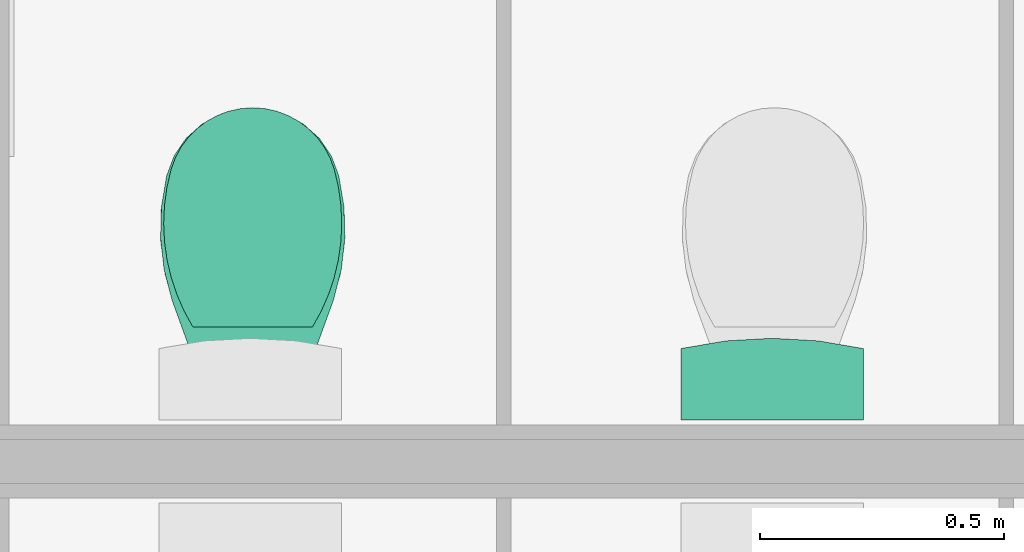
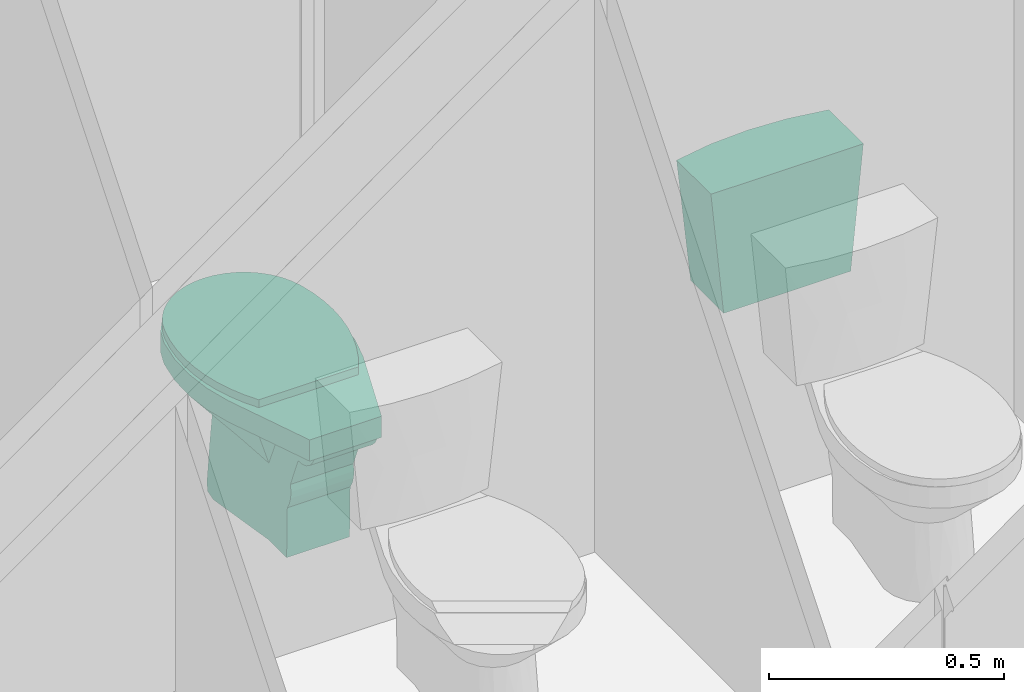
# One storey, part 69 of 155: 3 flow terminals.
"""IFC2X3 building model written with IfcOpenShell, lengths in metres."""

import ifcopenshell
import ifcopenshell.guid

model = None  # the IFC model being written
_history = None  # IfcOwnerHistory: only IFC2X3 demands one
_inside = {}  # id of a spatial element -> (the spatial element, [elements in it])
_under = {}  # id of a project, library or spatial element -> (it, [spatial elements below it])
_declared = {}  # id of a project -> (the project, [libraries it declares])
_typed = {}  # id of a type object -> (the type object, [elements of that type])
_made_of = {}  # id of a material, layer set ... -> (it, [elements and type objects made of it])


def new_model(schema):
    """Start an empty IFC model of exactly this schema.

    Asked for "IFC4X3", IfcOpenShell would pick the latest addendum, in which some entities
    have other attributes; the version numbers below select the first issue.
    IFC2X3 requires an IfcOwnerHistory on every rooted entity: one is made here for all.
    """
    global model, _history
    if schema == "IFC4X3":
        model = ifcopenshell.file(schema_version=(4, 3, 0, 0))
    else:
        model = ifcopenshell.file(schema=schema)
    _inside.clear()
    _under.clear()
    _declared.clear()
    _typed.clear()
    _made_of.clear()
    _history = None
    if model.schema == "IFC2X3":
        org = make("IfcOrganization", Name="unknown")
        user = make(
            "IfcPersonAndOrganization",
            ThePerson=make("IfcPerson", FamilyName="unknown"),
            TheOrganization=org,
        )
        app = make(
            "IfcApplication",
            ApplicationDeveloper=org,
            Version="unknown",
            ApplicationFullName="unknown",
            ApplicationIdentifier="unknown",
        )
        _history = make(
            "IfcOwnerHistory",
            OwningUser=user,
            OwningApplication=app,
            ChangeAction="ADDED",
            CreationDate=0,
        )
    return model


def make(cls, **values):
    """One entity of the class cls with the attributes given. An attribute that is None is left unset."""
    return model.create_entity(
        cls, **{name: value for name, value in values.items() if value is not None}
    )


def entity(cls, *values):
    """Any entity or typed value of the class cls, its attributes in the order of the schema. None: left unset."""
    e = model.create_entity(cls)
    for i, value in enumerate(values):
        if value is not None:
            e[i] = value
    return e


def rooted(cls, **values):
    """An entity with a GlobalId (a new one), such as an element, a storey or a relation."""
    return make(cls, GlobalId=ifcopenshell.guid.new(), OwnerHistory=_history, **values)


def si_unit(unit_type, name, prefix=None):
    """IfcSIUnit, for example si_unit("LENGTHUNIT", "METRE", prefix="MILLI")."""
    return make("IfcSIUnit", UnitType=unit_type, Prefix=prefix, Name=name)


def converted_unit(unit_type, name, factor, base, dimensions=None, offset=None):
    """IfcConversionBasedUnit, such as the inch: factor (a typed value) times the base unit."""
    return make(
        "IfcConversionBasedUnit"
        if offset is None
        else "IfcConversionBasedUnitWithOffset",
        ConversionOffset=offset,
        Dimensions=None
        if dimensions is None
        else entity("IfcDimensionalExponents", *dimensions),
        UnitType=unit_type,
        Name=name,
        ConversionFactor=make(
            "IfcMeasureWithUnit", ValueComponent=factor, UnitComponent=base
        ),
    )


def derived_unit(unit_type, elements):
    """IfcDerivedUnit: a product of units, each with its exponent."""
    return make(
        "IfcDerivedUnit",
        Elements=[
            make("IfcDerivedUnitElement", Unit=unit, Exponent=power)
            for unit, power in elements
        ],
        UnitType=unit_type,
    )


def assignment(units):
    """IfcUnitAssignment: the units of a project."""
    return None if units is None else make("IfcUnitAssignment", Units=units)


def point(xyz):
    """IfcCartesianPoint."""
    return None if xyz is None else make("IfcCartesianPoint", Coordinates=xyz)


def direction(xyz):
    """IfcDirection."""
    return None if xyz is None else make("IfcDirection", DirectionRatios=xyz)


def frame(location, z_axis=None, x_axis=None):
    """IfcAxis2Placement3D, a coordinate frame: its origin and axes. An axis left out is left unset."""
    return make(
        "IfcAxis2Placement3D",
        Location=point(location),
        Axis=direction(z_axis),
        RefDirection=direction(x_axis),
    )


def frame_2d(location, x_axis=None):
    """IfcAxis2Placement2D, a coordinate frame in the plane: its origin and x axis."""
    return make(
        "IfcAxis2Placement2D", Location=point(location), RefDirection=direction(x_axis)
    )


def origin():
    """The frame at (0, 0, 0) with its axes left unset."""
    return frame((0.0, 0.0, 0.0))


def place(relative_to, where):
    """IfcLocalPlacement: puts the frame where relative to a parent placement (None: the world)."""
    return make(
        "IfcLocalPlacement", PlacementRelTo=relative_to, RelativePlacement=where
    )


def context(
    kind, dimensions, precision=None, world=None, true_north=None, identifier=None
):
    """IfcGeometricRepresentationContext, for example the 3D "Model" context."""
    return make(
        "IfcGeometricRepresentationContext",
        ContextIdentifier=identifier,
        ContextType=kind,
        CoordinateSpaceDimension=dimensions,
        Precision=precision,
        WorldCoordinateSystem=world,
        TrueNorth=true_north,
    )


def subcontext(parent, identifier, kind, view, scale=None):
    """IfcGeometricRepresentationSubContext, for example "Body" below "Model"."""
    return make(
        "IfcGeometricRepresentationSubContext",
        ContextIdentifier=identifier,
        ContextType=kind,
        ParentContext=parent,
        TargetScale=scale,
        TargetView=view,
    )


def project(units=None, contexts=None):
    """IfcProject with its units and contexts."""
    return rooted(
        "IfcProject",
        Name="project",
        RepresentationContexts=contexts,
        UnitsInContext=assignment(units),
    )


def spatial(cls, under=None, at=None, **own):
    """A site, building, storey or space (cls), placed at a placement, below another one or the project."""
    s = rooted(cls, ObjectPlacement=at, **own)
    if under is not None:
        _under.setdefault(under.id(), (under, []))[1].append(s)
    return s


def polyline(points):
    """IfcPolyline through the points."""
    return make("IfcPolyline", Points=[point(p) for p in points])


def circle_curve(where, radius):
    """IfcCircle in the frame where."""
    return make("IfcCircle", Position=where, Radius=radius)


def parameter(value):
    """IfcParameterValue: where a trimmed curve begins or ends, as a parameter of its basis curve."""
    return model.create_entity("IfcParameterValue", value)


def trimmed(basis, trim1, trim2, sense, master):
    """IfcTrimmedCurve: the piece of a basis curve between two trims."""
    return make(
        "IfcTrimmedCurve",
        BasisCurve=basis,
        Trim1=trim1,
        Trim2=trim2,
        SenseAgreement=sense,
        MasterRepresentation=master,
    )


def segment(curve, same_sense, transition):
    """IfcCompositeCurveSegment."""
    return make(
        "IfcCompositeCurveSegment",
        Transition=transition,
        SameSense=same_sense,
        ParentCurve=curve,
    )


def composite_curve(segments, self_intersect=None):
    """IfcCompositeCurve: segments joined end to end."""
    return make("IfcCompositeCurve", Segments=segments, SelfIntersect=self_intersect)


def outline(outer, holes=None, kind="AREA"):
    """IfcArbitraryClosedProfileDef: a profile drawn as a closed curve; with holes, ...WithVoids."""
    if holes is None:
        return make("IfcArbitraryClosedProfileDef", ProfileType=kind, OuterCurve=outer)
    return make(
        "IfcArbitraryProfileDefWithVoids",
        ProfileType=kind,
        OuterCurve=outer,
        InnerCurves=holes,
    )


def extrude(swept, where, along, depth):
    """IfcExtrudedAreaSolid: the profile swept, set in the frame where, extruded along a direction by depth."""
    return make(
        "IfcExtrudedAreaSolid",
        SweptArea=swept,
        Position=where,
        ExtrudedDirection=direction(along),
        Depth=depth,
    )


def faces_of(points, faces, orient=None, outer=None):
    """IfcFace entities. A face is a list of loops; a loop is a list of indices into points, from 0.

    orient and outer hold one flag for each loop. By default every Orientation is true, the
    first loop of a face is its IfcFaceOuterBound and the others are IfcFaceBound.
    """
    made = []
    for i, loops in enumerate(faces):
        bounds = []
        for j, loop in enumerate(loops):
            is_outer = j == 0 if outer is None else outer[i][j]
            bounds.append(
                make(
                    "IfcFaceOuterBound" if is_outer else "IfcFaceBound",
                    Bound=make("IfcPolyLoop", Polygon=[points[k] for k in loop]),
                    Orientation=True if orient is None else orient[i][j],
                )
            )
        made.append(make("IfcFace", Bounds=bounds))
    return made


def faceted_brep(points, faces, orient=None, outer=None, voids=None):
    """IfcFacetedBrep: a solid bounded by flat faces; with voids (closed shells), ...WithVoids."""
    shared = [point(p) for p in points]
    hull = make("IfcClosedShell", CfsFaces=faces_of(shared, faces, orient, outer))
    if voids is None:
        return make("IfcFacetedBrep", Outer=hull)
    return make(
        "IfcFacetedBrepWithVoids",
        Outer=hull,
        Voids=[
            make(cls, CfsFaces=faces_of(shared, fs, o, b)) for cls, fs, o, b in voids
        ],
    )


def shape(context_of_items, identifier, shape_type, items):
    """IfcShapeRepresentation: the items that make up one representation, for example the "Body"."""
    return make(
        "IfcShapeRepresentation",
        ContextOfItems=context_of_items,
        RepresentationIdentifier=identifier,
        RepresentationType=shape_type,
        Items=items,
    )


def source(mapping_origin, context_of_items, identifier, shape_type, items):
    """IfcRepresentationMap: a shape defined once, which mapped items show again and again."""
    return make(
        "IfcRepresentationMap",
        MappingOrigin=mapping_origin,
        MappedRepresentation=shape(context_of_items, identifier, shape_type, items),
    )


def transform(
    local_origin,
    x_axis=None,
    y_axis=None,
    z_axis=None,
    scale=None,
    scale2=None,
    scale3=None,
    uniform=True,
):
    """IfcCartesianTransformationOperator3D, or its non-uniform kind. x_axis, y_axis, z_axis: its Axis1, 2, 3."""
    if uniform:
        return make(
            "IfcCartesianTransformationOperator3D",
            Axis1=direction(x_axis),
            Axis2=direction(y_axis),
            LocalOrigin=point(local_origin),
            Scale=scale,
            Axis3=direction(z_axis),
        )
    return make(
        "IfcCartesianTransformationOperator3DnonUniform",
        Axis1=direction(x_axis),
        Axis2=direction(y_axis),
        LocalOrigin=point(local_origin),
        Scale=scale,
        Axis3=direction(z_axis),
        Scale2=scale2,
        Scale3=scale3,
    )


def mapped(mapping_source, mapping_target):
    """IfcMappedItem: shows the shape of a source again, moved by a transform."""
    return make(
        "IfcMappedItem", MappingSource=mapping_source, MappingTarget=mapping_target
    )


def material(Name=None, Category=None):
    """IfcMaterial."""
    return make("IfcMaterial", Name=Name, Category=Category)


def made_of(thing, what):
    """Note that an element or type object is made of a material, layer set ...; save() writes the relation."""
    if what is not None:
        _made_of.setdefault(what.id(), (what, []))[1].append(thing)
    return thing


def element(
    cls,
    number,
    at=None,
    inside=None,
    cuts=None,
    type_object=None,
    material=None,
    context=None,
    identifier="Body",
    shape_type=None,
    held_by="IfcProductDefinitionShape",
    body=None,
    shapes=None,
    **own,
):
    """One element of the class cls, such as IfcWall. Its Tag is "e" and its number.

    at: its placement. inside: the storey or other place that contains it. cuts: it is an
    opening in that element (IfcRelVoidsElement). A single representation is given by context,
    identifier, shape_type and body (its items); several are given by shapes. held_by: the class
    of the entity that holds the representations. save() writes the other relations.
    """
    e = rooted(cls, Tag="e%d" % number, ObjectPlacement=at, **own)
    if body is not None:
        shapes = [shape(context, identifier, shape_type, body)]
    if shapes is not None:
        e.Representation = make(held_by, Representations=shapes)
    if inside is not None:
        _inside.setdefault(inside.id(), (inside, []))[1].append(e)
    if cuts is not None:
        rooted(
            "IfcRelVoidsElement", RelatingBuildingElement=cuts, RelatedOpeningElement=e
        )
    if type_object is not None:
        _typed.setdefault(type_object.id(), (type_object, []))[1].append(e)
    return made_of(e, material)


def aggregate(whole, parts):
    """IfcRelAggregates: a whole, such as a stair, and the parts it consists of."""
    return rooted("IfcRelAggregates", RelatingObject=whole, RelatedObjects=parts)


def save(model, path):
    """Write the relations noted so far, then the file.

    IfcRelAggregates (storeys below a building ...), IfcRelContainedInSpatialStructure (elements
    in a storey), IfcRelDefinesByType, IfcRelAssociatesMaterial and IfcRelDeclares: one each for
    every whole, place, type object, material and project.
    """
    for whole, parts in _under.values():
        aggregate(whole, parts)
    for where, things in _inside.values():
        rooted(
            "IfcRelContainedInSpatialStructure",
            RelatedElements=things,
            RelatingStructure=where,
        )
    for kind, things in _typed.values():
        rooted("IfcRelDefinesByType", RelatedObjects=things, RelatingType=kind)
    for what, things in _made_of.values():
        rooted("IfcRelAssociatesMaterial", RelatedObjects=things, RelatingMaterial=what)
    for by, libraries in _declared.values():
        rooted("IfcRelDeclares", RelatingContext=by, RelatedDefinitions=libraries)
    model.write(path)


model = new_model("IFC2X3")

# Units and contexts
model_context = context("Model", 3, precision=1e-05, world=origin(), true_north=direction((6.12303176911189e-17, 1.0)))
body_context = subcontext(model_context, "Body", "Model", "MODEL_VIEW")
ifc_project = project(units=[si_unit("LENGTHUNIT", "METRE"), si_unit("AREAUNIT", "SQUARE_METRE"), si_unit("VOLUMEUNIT", "CUBIC_METRE"), converted_unit("PLANEANGLEUNIT", "DEGREE", entity("IfcRatioMeasure", 0.0174532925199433), si_unit("PLANEANGLEUNIT", "RADIAN"), dimensions=[0, 0, 0, 0, 0, 0, 0]), si_unit("MASSUNIT", "GRAM", prefix="KILO"), derived_unit("MASSDENSITYUNIT", [(si_unit("MASSUNIT", "GRAM", prefix="KILO"), 1), (si_unit("LENGTHUNIT", "METRE"), -3)]), si_unit("TIMEUNIT", "SECOND"), si_unit("FREQUENCYUNIT", "HERTZ"), si_unit("THERMODYNAMICTEMPERATUREUNIT", "DEGREE_CELSIUS"), derived_unit("THERMALTRANSMITTANCEUNIT", [(si_unit("MASSUNIT", "GRAM", prefix="KILO"), 1), (si_unit("THERMODYNAMICTEMPERATUREUNIT", "KELVIN"), -1), (si_unit("TIMEUNIT", "SECOND"), -3)]), derived_unit("VOLUMETRICFLOWRATEUNIT", [(si_unit("LENGTHUNIT", "METRE"), 3), (si_unit("TIMEUNIT", "SECOND"), -1)]), si_unit("ELECTRICCURRENTUNIT", "AMPERE"), si_unit("ELECTRICVOLTAGEUNIT", "VOLT"), si_unit("POWERUNIT", "WATT"), si_unit("FORCEUNIT", "NEWTON", prefix="KILO"), si_unit("ILLUMINANCEUNIT", "LUX"), si_unit("LUMINOUSFLUXUNIT", "LUMEN"), si_unit("LUMINOUSINTENSITYUNIT", "CANDELA"), derived_unit("USERDEFINED", [(si_unit("MASSUNIT", "GRAM", prefix="KILO"), -1), (si_unit("LENGTHUNIT", "METRE"), -2), (si_unit("TIMEUNIT", "SECOND"), 3), (si_unit("LUMINOUSFLUXUNIT", "LUMEN"), 1)]), derived_unit("LINEARVELOCITYUNIT", [(si_unit("LENGTHUNIT", "METRE"), 1), (si_unit("TIMEUNIT", "SECOND"), -1)]), si_unit("PRESSUREUNIT", "PASCAL"), derived_unit("USERDEFINED", [(si_unit("LENGTHUNIT", "METRE"), -2), (si_unit("MASSUNIT", "GRAM", prefix="KILO"), 1), (si_unit("TIMEUNIT", "SECOND"), -2)])], contexts=[model_context])

# Site, building, storey, space
site_placement = place(None, frame((26.9889013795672, -17.5624287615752, 0.0)))
site = spatial("IfcSite", under=ifc_project, at=site_placement, Name="Default", CompositionType="ELEMENT")
building_placement = place(site_placement, origin())
building = spatial("IfcBuilding", under=site, at=building_placement, Name="C. C. L. Monsenhor Antônio Sampaio", CompositionType="ELEMENT")
storey_placement = place(building_placement, frame((0.0, 0.0, 1.19999999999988)))
storey = spatial("IfcBuildingStorey", under=building, at=storey_placement, Name="Nível 1.2", CompositionType="ELEMENT", Elevation=1.19999999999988)
space_placement = place(storey_placement, origin())
space = spatial("IfcSpace", under=storey, at=space_placement, Name="92", CompositionType="ELEMENT", InteriorOrExteriorSpace="INTERNAL")

# Flow terminals
ifc_material_1 = material(Name="Deca CR37 Creme Cerâmica")
shared_shape_1 = source(origin(), body_context, "Body", "Brep", [
    faceted_brep([(0.268160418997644, 0.068263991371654, 0.193201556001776), (0.268160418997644, 0.00159527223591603, 0.1938965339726), (0.268160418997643, 0.00159527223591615, 0.118207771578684), (0.268160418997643, 0.132881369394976, 0.11554487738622), (0.268160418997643, 0.1485359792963, 0.10659475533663), (0.268160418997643, 0.165757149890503, 0.101246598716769), (0.268160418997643, 0.183727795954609, 0.0997541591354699), (0.268160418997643, 0.201595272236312, 0.102188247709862), (0.268160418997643, 0.282841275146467, 0.0693627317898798), (0.268160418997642, 0.284385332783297, 0.0523178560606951), (0.268160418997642, 0.289960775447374, 0.0361368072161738), (0.268160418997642, 0.299244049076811, 0.0217586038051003), (0.268160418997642, 0.311696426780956, 0.0100176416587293), (0.268160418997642, 0.326595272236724, 0.001595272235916), (0.268160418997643, 0.326595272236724, 0.140707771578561), (0.268160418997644, 0.201595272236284, 0.193896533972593), (0.268160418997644, 0.134935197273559, 0.192953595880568), (0.113406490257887, 0.284385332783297, 0.0523178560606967), (0.113406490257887, 0.282841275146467, 0.0693627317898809), (0.113406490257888, 0.201595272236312, 0.102188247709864), (0.113406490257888, 0.183727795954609, 0.0997541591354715), (0.113406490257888, 0.165757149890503, 0.101246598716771), (0.113406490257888, 0.1485359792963, 0.106594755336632), (0.113406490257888, 0.132881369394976, 0.115544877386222), (0.113406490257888, 0.00159527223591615, 0.118207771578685), (0.113406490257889, 0.00159527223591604, 0.193896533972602), (0.113406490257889, 0.0682618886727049, 0.194043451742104), (0.113406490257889, 0.134928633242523, 0.194094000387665), (0.113406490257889, 0.201595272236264, 0.193896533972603), (0.113406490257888, 0.326595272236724, 0.140707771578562), (0.113406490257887, 0.326595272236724, 0.00159527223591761), (0.113406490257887, 0.311696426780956, 0.0100176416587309), (0.113406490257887, 0.299244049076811, 0.0217586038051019), (0.113406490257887, 0.289960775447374, 0.0361368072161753), (0.105407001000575, 0.00159527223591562, 0.444568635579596), (0.0904656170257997, 0.00159527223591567, 0.415244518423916), (0.085317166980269, 0.00159527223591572, 0.382738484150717), (0.0979976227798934, 0.00159527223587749, 0.297541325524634), (0.105710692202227, 0.00159527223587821, 0.24571892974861), (0.281970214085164, 0.00159527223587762, 0.288317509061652), (0.295700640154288, 0.00159527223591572, 0.382738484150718), (0.290552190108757, 0.00159527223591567, 0.415244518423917), (0.275610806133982, 0.00159527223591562, 0.444568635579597), (0.252339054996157, 0.00159527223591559, 0.467840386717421), (0.223014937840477, 0.00159527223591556, 0.482781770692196), (0.206761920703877, 0.00159527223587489, 0.485355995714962), (0.190508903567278, 0.00159527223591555, 0.487930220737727), (0.158002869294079, 0.00159527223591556, 0.482781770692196), (0.128678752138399, 0.00159527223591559, 0.467840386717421), (0.27929222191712, 0.201595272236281, 0.393896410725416), (0.274335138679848, 0.201595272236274, 0.304195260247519), (0.271287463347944, 0.201595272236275, 0.249045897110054), (0.107574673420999, 0.201595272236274, 0.293896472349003), (0.104935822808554, 0.201595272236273, 0.339012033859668), (0.101725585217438, 0.201595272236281, 0.393896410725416), (0.107910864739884, 0.201595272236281, 0.423407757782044), (0.123610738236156, 0.20159527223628, 0.449150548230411), (0.147016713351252, 0.20159527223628, 0.468159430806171), (0.161224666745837, 0.201595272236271, 0.473202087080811), (0.175432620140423, 0.20159527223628, 0.47824474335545), (0.205585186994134, 0.20159527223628, 0.47824474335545), (0.234001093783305, 0.20159527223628, 0.468159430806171), (0.245704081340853, 0.201595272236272, 0.458654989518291), (0.257407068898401, 0.20159527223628, 0.449150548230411), (0.273106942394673, 0.201595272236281, 0.423407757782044), (0.098784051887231, 0.0914531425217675, 0.330769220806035), (0.105110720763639, 0.09802538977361, 0.273844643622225), (0.0934222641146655, 0.100387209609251, 0.388250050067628), (0.0953872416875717, 0.124338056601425, 0.389586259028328), (0.274339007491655, 0.102339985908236, 0.255685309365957), (0.280137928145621, 0.0987925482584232, 0.312510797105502), (0.285630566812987, 0.124338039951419, 0.389586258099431), (0.287496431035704, 0.101595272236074, 0.388317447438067), (0.0966193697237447, 0.106555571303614, 0.409632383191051), (0.121774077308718, 0.0904895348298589, 0.45601571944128), (0.109893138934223, 0.110328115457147, 0.439731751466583), (0.233838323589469, 0.0897522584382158, 0.474126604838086), (0.271124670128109, 0.110328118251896, 0.4397317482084), (0.259243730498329, 0.0904895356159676, 0.456015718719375), (0.165732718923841, 0.104768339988, 0.480372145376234), (0.284398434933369, 0.106555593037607, 0.40963238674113), (0.137585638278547, 0.102665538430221, 0.46796088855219), (0.212957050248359, 0.100008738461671, 0.481168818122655), (0.186508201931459, 0.111859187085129, 0.483217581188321)], [[[0, 1, 2, 3, 4, 5, 6, 7, 8, 9, 10, 11, 12, 13, 14, 15, 16]], [[17, 18, 19, 20, 21, 22, 23, 24, 25, 26, 27, 28, 29, 30, 31, 32, 33]], [[14, 13, 30, 29]], [[34, 35, 36, 37, 38, 25, 24, 2, 1, 39, 40, 41, 42, 43, 44, 45, 46, 47, 48]], [[3, 2, 24, 23]], [[3, 23, 22, 4]], [[4, 22, 21, 5]], [[20, 19, 7, 6]], [[20, 6, 5, 21]], [[8, 7, 19, 18]], [[8, 18, 17, 9]], [[9, 17, 33, 10]], [[33, 32, 11, 10]], [[11, 32, 31, 12]], [[12, 31, 30, 13]], [[15, 14, 29, 28]], [[49, 50, 51, 15, 28, 52, 53, 54, 55, 56, 57, 58, 59, 60, 61, 62, 63, 64]], [[65, 53, 52]], [[66, 65, 52]], [[27, 66, 28]], [[37, 66, 38]], [[36, 67, 65]], [[53, 67, 68, 54]], [[26, 25, 38]], [[26, 38, 66]], [[66, 52, 28]], [[27, 26, 66]], [[65, 66, 37]], [[36, 65, 37]], [[53, 65, 67]], [[39, 1, 69]], [[40, 39, 70]], [[69, 0, 16]], [[1, 0, 69]], [[70, 49, 71, 72, 40]], [[49, 70, 50]], [[70, 39, 69]], [[70, 69, 50]], [[16, 51, 69]], [[51, 16, 15]], [[51, 50, 69]], [[54, 73, 55]], [[36, 35, 73]], [[74, 34, 48]], [[75, 74, 56]], [[61, 76, 62]], [[75, 35, 34]], [[77, 78, 42]], [[79, 59, 58]], [[73, 54, 68, 67, 36]], [[80, 40, 72, 71, 49]], [[74, 75, 34]], [[56, 74, 81]], [[47, 81, 48]], [[81, 74, 48]], [[47, 79, 81]], [[75, 55, 73]], [[81, 79, 58]], [[56, 55, 75]], [[82, 76, 61]], [[44, 43, 76]], [[41, 80, 77]], [[45, 82, 83]], [[82, 61, 60]], [[43, 42, 78]], [[83, 82, 60]], [[49, 64, 80]], [[44, 82, 45]], [[82, 44, 76]], [[46, 83, 79]], [[83, 59, 79]], [[78, 76, 43]], [[77, 63, 78]], [[83, 46, 45]], [[46, 79, 47]], [[57, 81, 58]], [[60, 59, 83]], [[62, 76, 78]], [[62, 78, 63]], [[56, 81, 57]], [[41, 77, 42]], [[64, 63, 77]], [[75, 73, 35]], [[77, 80, 64]], [[40, 80, 41]]]),
    faceted_brep([(0.102206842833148, 0.326595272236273, 0.00159527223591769), (0.278810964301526, 0.326595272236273, 0.0015952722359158), (0.356018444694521, 0.32659527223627, 0.214136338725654), (0.37213908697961, 0.326595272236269, 0.276529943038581), (0.379422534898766, 0.326595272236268, 0.340559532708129), (0.377727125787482, 0.326595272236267, 0.404979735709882), (0.367085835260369, 0.326595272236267, 0.468537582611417), (0.351716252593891, 0.326595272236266, 0.509738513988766), (0.326893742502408, 0.326595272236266, 0.546037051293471), (0.294073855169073, 0.326595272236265, 0.575304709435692), (0.2551810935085, 0.326595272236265, 0.595825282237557), (0.212496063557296, 0.326595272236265, 0.606395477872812), (0.168521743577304, 0.326595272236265, 0.606395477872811), (0.1258367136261, 0.326595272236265, 0.595825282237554), (0.0869439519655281, 0.326595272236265, 0.575304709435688), (0.0541240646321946, 0.326595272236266, 0.546037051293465), (0.0293015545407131, 0.326595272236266, 0.50973851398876), (0.0139319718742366, 0.326595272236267, 0.468537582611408), (0.00329068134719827, 0.326595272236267, 0.404979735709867), (0.001595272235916, 0.326595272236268, 0.340559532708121), (0.00887872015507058, 0.326595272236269, 0.276529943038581), (0.0249993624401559, 0.32659527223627, 0.214136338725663), (0.212496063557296, 0.381595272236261, 0.606395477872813), (0.2551810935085, 0.381595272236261, 0.595825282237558), (0.294073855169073, 0.381595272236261, 0.575304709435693), (0.326893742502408, 0.381595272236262, 0.546037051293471), (0.351716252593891, 0.381595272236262, 0.509738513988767), (0.367085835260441, 0.381595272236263, 0.468537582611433), (0.377727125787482, 0.381595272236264, 0.404979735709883), (0.379422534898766, 0.381595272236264, 0.340559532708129), (0.37213908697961, 0.381595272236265, 0.276529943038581), (0.356018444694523, 0.381595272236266, 0.21413633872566), (0.278810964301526, 0.381595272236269, 0.00159527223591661), (0.102206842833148, 0.381595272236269, 0.00159527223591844), (0.0249993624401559, 0.381595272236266, 0.214136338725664), (0.00887872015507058, 0.381595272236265, 0.276529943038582), (0.001595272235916, 0.381595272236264, 0.340559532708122), (0.00329068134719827, 0.381595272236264, 0.404979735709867), (0.0139319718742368, 0.381595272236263, 0.46853758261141), (0.0293015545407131, 0.381595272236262, 0.50973851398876), (0.0541240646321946, 0.381595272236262, 0.546037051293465), (0.0869439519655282, 0.381595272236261, 0.575304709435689), (0.1258367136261, 0.381595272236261, 0.595825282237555), (0.168521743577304, 0.381595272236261, 0.606395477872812)], [[[0, 1, 2, 3, 4, 5, 6, 7, 8, 9, 10, 11, 12, 13, 14, 15, 16, 17, 18, 19, 20, 21]], [[22, 23, 24, 25, 26, 27, 28, 29, 30, 31, 32, 33, 34, 35, 36, 37, 38, 39, 40, 41, 42, 43]], [[0, 21, 34, 33]], [[1, 0, 33, 32]], [[2, 1, 32, 31]], [[30, 29, 4, 3]], [[30, 3, 2, 31]], [[28, 27, 6, 5]], [[28, 5, 4, 29]], [[26, 7, 6, 27]], [[25, 8, 7, 26]], [[10, 9, 24, 23]], [[25, 24, 9, 8]], [[11, 10, 23, 22]], [[22, 43, 12, 11]], [[42, 41, 14, 13]], [[43, 42, 13, 12]], [[15, 40, 39, 16]], [[40, 15, 14, 41]], [[16, 39, 38, 17]], [[37, 36, 19, 18]], [[37, 18, 17, 38]], [[35, 34, 21, 20]], [[35, 20, 19, 36]]]),
    faceted_brep([(0.370336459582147, 0.326595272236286, 0.267316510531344), (0.351889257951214, 0.326595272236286, 0.202319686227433), (0.324160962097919, 0.326595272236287, 0.140707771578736), (0.0568568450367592, 0.326595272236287, 0.140707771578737), (0.0291285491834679, 0.326595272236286, 0.202319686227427), (0.0106813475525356, 0.326595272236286, 0.267316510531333), (0.00190963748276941, 0.326595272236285, 0.334308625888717), (0.00300095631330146, 0.326595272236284, 0.401863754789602), (0.0139319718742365, 0.326595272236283, 0.468537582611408), (0.0293015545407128, 0.326595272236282, 0.509738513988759), (0.0541240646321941, 0.326595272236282, 0.546037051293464), (0.0869439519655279, 0.326595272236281, 0.575304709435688), (0.1258367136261, 0.326595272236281, 0.595825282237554), (0.168521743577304, 0.326595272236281, 0.606395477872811), (0.212496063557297, 0.326595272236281, 0.606395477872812), (0.255181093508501, 0.326595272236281, 0.595825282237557), (0.294073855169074, 0.326595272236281, 0.575304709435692), (0.326893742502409, 0.326595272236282, 0.546037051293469), (0.351716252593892, 0.326595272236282, 0.509738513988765), (0.36708583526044, 0.326595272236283, 0.468537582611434), (0.378016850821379, 0.326595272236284, 0.401863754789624), (0.379108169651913, 0.326595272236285, 0.334308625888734), (0.11342376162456, 0.201595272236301, 0.193896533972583), (0.268239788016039, 0.201595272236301, 0.193896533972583), (0.271002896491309, 0.201595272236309, 0.243896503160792), (0.273766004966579, 0.201595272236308, 0.293896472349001), (0.276529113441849, 0.201595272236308, 0.34389644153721), (0.27929222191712, 0.201595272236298, 0.39389641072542), (0.273106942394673, 0.201595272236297, 0.423407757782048), (0.2574070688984, 0.201595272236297, 0.449150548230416), (0.245704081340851, 0.201595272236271, 0.458654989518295), (0.234001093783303, 0.201595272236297, 0.468159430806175), (0.20558518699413, 0.201595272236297, 0.478244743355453), (0.175432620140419, 0.201595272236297, 0.478244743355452), (0.147016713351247, 0.201595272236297, 0.468159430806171), (0.1353137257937, 0.201595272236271, 0.45865498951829), (0.123610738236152, 0.201595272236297, 0.449150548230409), (0.107910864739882, 0.201595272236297, 0.42340775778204), (0.101725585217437, 0.201595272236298, 0.393896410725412), (0.104650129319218, 0.201595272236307, 0.343896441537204), (0.107574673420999, 0.201595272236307, 0.293896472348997), (0.11049921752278, 0.201595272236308, 0.24389650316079), (0.0897553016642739, 0.253897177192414, 0.171641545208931), (0.0733060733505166, 0.290246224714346, 0.156174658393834), (0.307908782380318, 0.290266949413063, 0.15616583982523), (0.291656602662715, 0.253938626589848, 0.17162390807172), (0.319208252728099, 0.272102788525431, 0.227274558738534), (0.29696767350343, 0.2335483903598, 0.266380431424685), (0.301825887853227, 0.233548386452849, 0.324994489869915), (0.326006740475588, 0.265501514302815, 0.297350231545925), (0.334403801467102, 0.2721027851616, 0.369343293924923), (0.292104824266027, 0.236338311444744, 0.219552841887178), (0.341570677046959, 0.290266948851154, 0.446844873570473), (0.335161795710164, 0.281142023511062, 0.441396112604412), (0.316055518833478, 0.253938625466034, 0.425152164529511), (0.30510677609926, 0.236338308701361, 0.372928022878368), (0.0467077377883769, 0.27207170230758, 0.369338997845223), (0.0649913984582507, 0.253897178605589, 0.425127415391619), (0.0458560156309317, 0.281142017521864, 0.441396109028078), (0.0394616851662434, 0.290246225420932, 0.446832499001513), (0.0793721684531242, 0.233548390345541, 0.324994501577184), (0.084350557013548, 0.233548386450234, 0.266380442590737), (0.0551688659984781, 0.26550151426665, 0.297350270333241), (0.0620458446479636, 0.272071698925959, 0.227275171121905), (0.0759980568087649, 0.236332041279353, 0.372914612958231), (0.089299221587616, 0.236332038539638, 0.219565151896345), (0.0711556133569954, 0.253109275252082, 0.447531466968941), (0.0730163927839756, 0.268794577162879, 0.482893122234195), (0.224981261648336, 0.266780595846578, 0.541965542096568), (0.190508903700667, 0.260738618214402, 0.540189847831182), (0.130559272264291, 0.266252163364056, 0.531942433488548), (0.10885067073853, 0.267953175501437, 0.520707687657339), (0.309862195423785, 0.253109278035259, 0.447531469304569), (0.15603654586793, 0.266780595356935, 0.541965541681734), (0.0912929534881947, 0.265794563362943, 0.502321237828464), (0.250458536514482, 0.266252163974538, 0.531942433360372), (0.308001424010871, 0.268794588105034, 0.482893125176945), (0.289724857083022, 0.265794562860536, 0.50232123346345), (0.272167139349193, 0.26795317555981, 0.520707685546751)], [[[0, 1, 2, 3, 4, 5, 6, 7, 8, 9, 10, 11, 12, 13, 14, 15, 16, 17, 18, 19, 20, 21]], [[22, 23, 24, 25, 26, 27, 28, 29, 30, 31, 32, 33, 34, 35, 36, 37, 38, 39, 40, 41]], [[22, 42, 43, 3, 2, 44, 45, 23]], [[44, 46, 45]], [[25, 47, 48]], [[49, 0, 21]], [[20, 50, 21]], [[1, 46, 44]], [[51, 46, 47]], [[47, 46, 49]], [[50, 52, 53, 54]], [[26, 25, 48]], [[1, 0, 46]], [[44, 2, 1]], [[55, 27, 26]], [[26, 48, 55]], [[0, 49, 46]], [[52, 50, 20]], [[20, 19, 52]], [[50, 49, 21]], [[24, 47, 25]], [[45, 51, 23]], [[47, 24, 51]], [[48, 47, 49]], [[23, 51, 24]], [[46, 51, 45]], [[49, 50, 48]], [[55, 50, 54]], [[50, 55, 48]], [[27, 55, 54]], [[56, 57, 58, 59]], [[40, 60, 61]], [[62, 6, 5]], [[4, 63, 5]], [[7, 56, 59]], [[64, 56, 60]], [[60, 56, 62]], [[42, 63, 43]], [[41, 40, 61]], [[7, 6, 56]], [[59, 8, 7]], [[65, 22, 41]], [[41, 61, 65]], [[6, 62, 56]], [[43, 63, 4]], [[4, 3, 43]], [[63, 62, 5]], [[39, 60, 40]], [[57, 64, 38]], [[60, 39, 64]], [[61, 60, 62]], [[38, 64, 39]], [[56, 64, 57]], [[62, 63, 61]], [[65, 63, 42]], [[63, 65, 61]], [[22, 65, 42]], [[66, 37, 67]], [[68, 69, 32]], [[35, 70, 71]], [[72, 27, 54, 53]], [[69, 73, 33]], [[74, 67, 36]], [[27, 72, 28]], [[73, 34, 33]], [[33, 32, 69]], [[37, 66, 38]], [[9, 67, 10]], [[9, 8, 59, 58]], [[10, 67, 74]], [[73, 70, 34]], [[69, 68, 14]], [[18, 53, 52, 19]], [[73, 13, 12]], [[11, 74, 71]], [[13, 73, 69]], [[12, 11, 70]], [[31, 75, 68]], [[76, 17, 77]], [[29, 28, 76]], [[11, 10, 74]], [[35, 71, 36]], [[78, 30, 29]], [[70, 35, 34]], [[73, 12, 70]], [[68, 15, 14]], [[75, 15, 68]], [[16, 15, 75]], [[29, 77, 78]], [[77, 29, 76]], [[76, 18, 17]], [[9, 66, 67]], [[36, 67, 37]], [[18, 76, 72]], [[66, 9, 58]], [[66, 58, 57, 38]], [[14, 13, 69]], [[72, 76, 28]], [[31, 68, 32]], [[18, 72, 53]], [[17, 16, 77]], [[75, 31, 30]], [[78, 77, 16]], [[71, 74, 36]], [[70, 11, 71]], [[16, 75, 78]], [[30, 78, 75]]]),
])
flow_terminal_1_placement = place(space_placement, frame((-2.68764184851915, -12.5612741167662, -0.00159527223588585), z_axis=(0.0, 1.0, 0.0), x_axis=(-1.0, 0.0, 0.0)))
element("IfcFlowTerminal", 1, at=flow_terminal_1_placement, inside=space, material=ifc_material_1, Name="Bacia para Caixa Acoplada:P.750_Creme CR37_Acionamento Simples 6lpf", ObjectType="P.750_Creme CR37_Acionamento Simples 6lpf", context=body_context, shape_type="MappedRepresentation", body=[
    mapped(shared_shape_1, transform((0.0, 0.0, 0.0), scale=1.0)),
])
ifc_material_2 = material(Name="Deca GE17 Branco Gelo Plástico")
shared_shape_2 = source(origin(), body_context, "Body", "SweptSolid", [
    extrude(outline(composite_curve([segment(trimmed(circle_curve(frame_2d((-0.195877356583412, 0.120829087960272), x_axis=(1.0, 0.0)), 0.406949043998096), [parameter(309.687623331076)], [parameter(356.917468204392)], True, "PARAMETER"), True, "CONTINUOUS"), segment(trimmed(circle_curve(frame_2d((0.0368457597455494, 0.108296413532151), x_axis=(-0.946706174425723, 0.322098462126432)), 0.173888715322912), [parameter(195.707346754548)], [parameter(344.292653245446)], True, "PARAMETER"), True, "CONTINUOUS"), segment(trimmed(circle_curve(frame_2d((0.2289232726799, -0.0237011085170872), x_axis=(-0.792505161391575, 0.609865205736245)), 0.406949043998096), [parameter(3.08253179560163)], [parameter(50.3123766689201)], True, "PARAMETER"), True, "CONTINUOUS"), segment(polyline([(-0.168018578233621, -0.113393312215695), (0.0640009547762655, -0.19233346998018)]), True, "CONTINUOUS")], self_intersect=False)), frame((0.0, 0.00078451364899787, 0.151312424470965), z_axis=(0.0, 1.0, 0.0), x_axis=(-0.946706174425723, 0.0, 0.322098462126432)), (0.0, 0.0, 1.0), 0.0202797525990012),
])
flow_terminal_2_placement = place(space_placement, frame((-2.87815075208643, -12.3924413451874, 0.380000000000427), z_axis=(0.0, 1.0, 0.0), x_axis=(-1.0, 0.0, 0.0)))
element("IfcFlowTerminal", 2, at=flow_terminal_2_placement, inside=space, material=ifc_material_2, Name="Assento para Bacia Sanitária:Assento para Bacia Sanitária", ObjectType="Assento para Bacia Sanitária", context=body_context, shape_type="MappedRepresentation", body=[
    mapped(shared_shape_2, transform((0.0, 0.0, 0.0), scale=1.0)),
])
shared_shape_3 = source(origin(), body_context, "Body", "Brep", [
    faceted_brep([(0.156041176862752, 0.0, 0.140537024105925), (0.0783916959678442, 0.0, 0.151956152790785), (0.0, 0.0, 0.155774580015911), (-0.0783916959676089, 0.0, 0.151956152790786), (-0.156041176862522, 0.0, 0.140537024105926), (-0.156041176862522, 0.0, 0.0), (0.156041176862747, 0.0, 0.0), (0.187262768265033, 0.320000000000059, 0.146391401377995), (0.187262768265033, 0.320000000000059, 0.0), (-0.187262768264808, 0.320000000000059, 0.0), (-0.187262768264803, 0.320000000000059, 0.146391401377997), (-0.0942242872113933, 0.320000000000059, 0.162205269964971), (0.0, 0.320000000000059, 0.167498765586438), (0.0942242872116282, 0.320000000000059, 0.16220526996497), (-0.171038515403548, 0.153712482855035, 0.143349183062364), (0.172265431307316, 0.166287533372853, 0.143579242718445), (0.107419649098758, 0.153032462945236, 0.154306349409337), (0.0432143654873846, 0.160000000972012, 0.160496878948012), (-0.0432143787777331, 0.160000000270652, 0.160496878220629), (-0.108279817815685, 0.16696754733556, 0.154716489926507)], [[[0, 1, 2, 3, 4, 5, 6]], [[7, 8, 9, 10, 11, 12, 13]], [[9, 5, 4, 14, 10]], [[6, 8, 7, 15, 0]], [[5, 9, 8, 6]], [[0, 15, 7, 16]], [[13, 16, 7]], [[13, 12, 17]], [[16, 13, 17]], [[16, 17, 1]], [[18, 17, 12]], [[17, 2, 1]], [[19, 18, 11]], [[3, 19, 4]], [[10, 19, 11]], [[11, 18, 12]], [[18, 19, 3]], [[0, 16, 1]], [[2, 17, 18]], [[10, 14, 4, 19]], [[2, 18, 3]]]),
])
flow_terminal_3_placement = place(space_placement, frame((-1.81315075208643, -12.5930663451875, 0.380000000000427), z_axis=(0.0, 1.0, 0.0), x_axis=(-1.0, 0.0, 0.0)))
element("IfcFlowTerminal", 3, at=flow_terminal_3_placement, inside=space, material=ifc_material_1, Name="Caixa de Descarga Acoplada:Caixa de Descarga Acoplada", ObjectType="Caixa de Descarga Acoplada", context=body_context, shape_type="MappedRepresentation", body=[
    mapped(shared_shape_3, transform((0.0, 0.0, 0.0), scale=1.0)),
])

save(model, "model.ifc")
